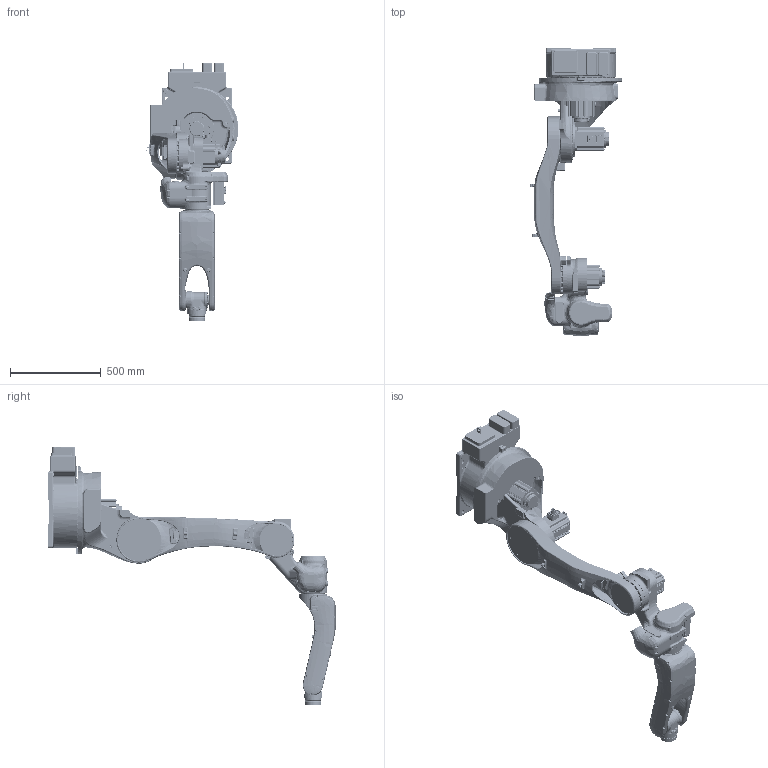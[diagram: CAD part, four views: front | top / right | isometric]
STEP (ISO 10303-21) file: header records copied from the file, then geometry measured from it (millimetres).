
FILE_DESCRIPTION (( 'STEP AP214' ), '1' );
FILE_NAME ('RH18-20 唸堍唳C(俋楷).STEP', '2021-05-06T00:50:17', ( '' ), ( '' ), 'SwSTEP 2.0', 'SolidWorks 2016', '' );
FILE_SCHEMA (( 'AUTOMOTIVE_DESIGN' ));
Length unit declared in the file: millimetre
Products named in the file (7): CR1800 shell 湮旋; CR1800 shell 紵窒; CR1800 shell 殈窒 ; RH18-20 唸堍唳C(俋楷); CR140600C勂窒郪璃; CR1800 shell 菁釱; CR1800 shell 苤旋
Assembly tree (6 placements, depth 2):
  RH18-20 唸堍唳C(俋楷)
    CR1800 shell 殈窒 
    CR1800 shell 菁釱
    CR1800 shell 湮旋
    CR1800 shell 紵窒
    CR1800 shell 苤旋
    CR140600C勂窒郪璃
Bounding box: 511.16 x 1585 x 1422 mm (x, y, z)
Surface area: 4087082.3 mm2 (no closed solid volume)
Topology: 0 solids, 215 shells, 5314 faces, 17099 edges, 11441 vertices
Faces by surface type: cylinder 1690, plane 1404, bspline 1290, torus 533, cone 327, sphere 70
Entity records: 317275 total; most frequent: CARTESIAN_POINT 159913, ORIENTED_EDGE 27895, DIRECTION 26611, EDGE_CURVE 16864, VERTEX_POINT 11421, AXIS2_PLACEMENT_3D 10188, VECTOR 6235, LINE 6235
